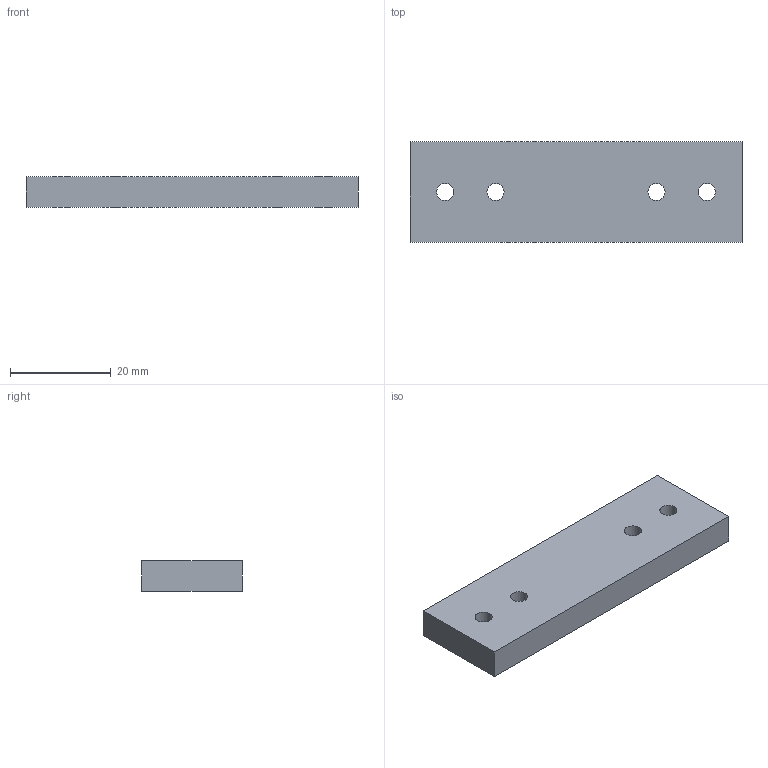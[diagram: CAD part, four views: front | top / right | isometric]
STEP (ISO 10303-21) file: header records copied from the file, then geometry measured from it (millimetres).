
FILE_DESCRIPTION(('Open CASCADE Model'),'2;1');
FILE_NAME('Open CASCADE Shape Model','2026-10-21T12:04:46',('Author'),( 'Open CASCADE'),'Open CASCADE STEP processor 7.9','Open CASCADE 7.9' ,'Unknown');
FILE_SCHEMA(('AUTOMOTIVE_DESIGN { 1 0 10303 214 1 1 1 1 }'));
Length unit declared in the file: millimetre
Products named in the file (1): Open CASCADE STEP translator 7.9 5
Bounding box: 66 x 20 x 6 mm (x, y, z)
Volume: 7702.1 mm3; surface area: 3855.7 mm2
Topology: 1 solids, 1 shells, 10 faces, 24 edges, 16 vertices
Faces by surface type: plane 6, cylinder 4
Full cylindrical faces by diameter (mm): 3.4 x4
Entity records: 658 total; most frequent: CARTESIAN_POINT 147, DIRECTION 94, LINE 56, VECTOR 56, ORIENTED_EDGE 48, PCURVE 48, DEFINITIONAL_REPRESENTATION 48, EDGE_CURVE 24
